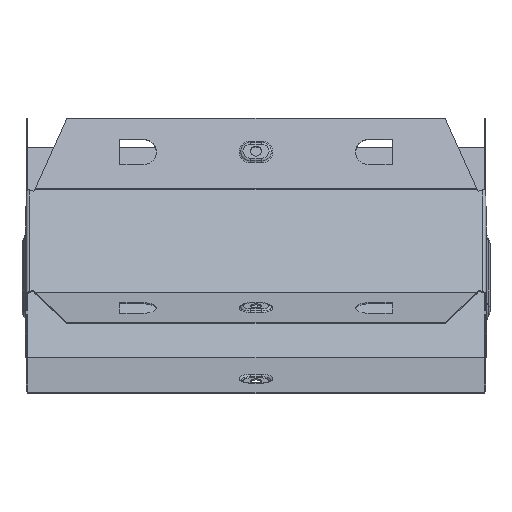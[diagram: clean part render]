
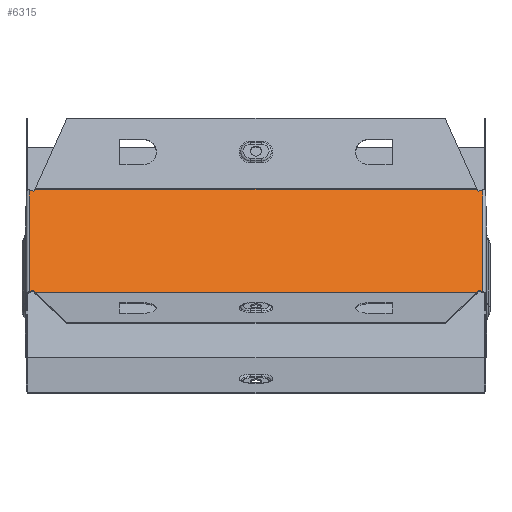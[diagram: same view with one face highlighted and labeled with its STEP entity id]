
A CAD part, front view. The second image highlights one B-rep face of the part: STEP entity #6315.
In plain terms, the highlighted planar face has unit normal (0, -0.707, 0.707).
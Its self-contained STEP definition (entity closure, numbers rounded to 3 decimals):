
#26 = CARTESIAN_POINT ( 'NONE',  ( 145.217, 3.747, -68.371 ) ) ;
#60 = EDGE_CURVE ( 'NONE', #10866, #755, #9585, .T. ) ;
#64 = DIRECTION ( 'NONE',  ( -0.383, 0.653, 0.653 ) ) ;
#86 = VERTEX_POINT ( 'NONE', #11418 ) ;
#262 = CARTESIAN_POINT ( 'NONE',  ( 148.2, 2.873, -69.245 ) ) ;
#417 = CARTESIAN_POINT ( 'NONE',  ( 148.2, 70., -2.118 ) ) ;
#418 = AXIS2_PLACEMENT_3D ( 'NONE', #9348, #7422, #3901 ) ;
#755 = VERTEX_POINT ( 'NONE', #3385 ) ;
#824 = VERTEX_POINT ( 'NONE', #26 ) ;
#1188 = ORIENTED_EDGE ( 'NONE', *, *, #3647, .T. ) ;
#1281 = DIRECTION ( 'NONE',  ( -0.924, -0.271, -0.271 ) ) ;
#1355 = CARTESIAN_POINT ( 'NONE',  ( 145.217, 68.371, -3.747 ) ) ;
#1407 = CARTESIAN_POINT ( 'NONE',  ( 150.299, 2.258, -69.859 ) ) ;
#1577 = ORIENTED_EDGE ( 'NONE', *, *, #4798, .T. ) ;
#1715 = EDGE_LOOP ( 'NONE', ( #6818, #7938, #9898, #1188, #9897, #1577, #2238, #10076, #5448, #2293, #8550, #5982 ) ) ;
#1747 = VERTEX_POINT ( 'NONE', #3424 ) ;
#2070 = DIRECTION ( 'NONE',  ( 0.383, 0.653, 0.653 ) ) ;
#2141 = EDGE_CURVE ( 'NONE', #824, #8293, #5391, .T. ) ;
#2238 = ORIENTED_EDGE ( 'NONE', *, *, #10884, .T. ) ;
#2293 = ORIENTED_EDGE ( 'NONE', *, *, #9807, .T. ) ;
#2308 = VECTOR ( 'NONE', #5974, 1000. ) ;
#2347 = VERTEX_POINT ( 'NONE', #7686 ) ;
#2359 = EDGE_CURVE ( 'NONE', #8275, #755, #7883, .T. ) ;
#2691 = CARTESIAN_POINT ( 'NONE',  ( 123.5, 105.445, 33.327 ) ) ;
#2938 = CARTESIAN_POINT ( 'NONE',  ( 123.5, -33.327, -105.445 ) ) ;
#3048 = VECTOR ( 'NONE', #7613, 1000. ) ;
#3055 = VECTOR ( 'NONE', #2070, 1000. ) ;
#3114 = CARTESIAN_POINT ( 'NONE',  ( -145.217, 68.371, -3.747 ) ) ;
#3156 = VECTOR ( 'NONE', #1281, 1000. ) ;
#3202 = VECTOR ( 'NONE', #10310, 1000. ) ;
#3385 = CARTESIAN_POINT ( 'NONE',  ( -144.345, 2.258, -69.859 ) ) ;
#3391 = VECTOR ( 'NONE', #5013, 1000. ) ;
#3424 = CARTESIAN_POINT ( 'NONE',  ( -148.2, 2.873, -69.245 ) ) ;
#3493 = DIRECTION ( 'NONE',  ( -1., 0., 0. ) ) ;
#3534 = LINE ( 'NONE', #8519, #3391 ) ;
#3583 = EDGE_CURVE ( 'NONE', #3588, #10211, #4387, .T. ) ;
#3588 = VERTEX_POINT ( 'NONE', #1355 ) ;
#3647 = EDGE_CURVE ( 'NONE', #7996, #3588, #5087, .T. ) ;
#3691 = EDGE_CURVE ( 'NONE', #7996, #8293, #10062, .T. ) ;
#3901 = DIRECTION ( 'NONE',  ( 0., 0.707, 0.707 ) ) ;
#4150 = CARTESIAN_POINT ( 'NONE',  ( 148.2, 69.245, -2.873 ) ) ;
#4170 = LINE ( 'NONE', #7864, #10107 ) ;
#4246 = LINE ( 'NONE', #4808, #2308 ) ;
#4303 = CARTESIAN_POINT ( 'NONE',  ( -145.217, 3.747, -68.371 ) ) ;
#4387 = LINE ( 'NONE', #2691, #8214 ) ;
#4421 = CARTESIAN_POINT ( 'NONE',  ( 148.2, 2.258, -69.859 ) ) ;
#4478 = FACE_OUTER_BOUND ( 'NONE', #1715, .T. ) ;
#4633 = CARTESIAN_POINT ( 'NONE',  ( 144.345, 2.258, -69.859 ) ) ;
#4758 = CARTESIAN_POINT ( 'NONE',  ( 150.299, 69.859, -2.258 ) ) ;
#4798 = EDGE_CURVE ( 'NONE', #10211, #86, #3534, .T. ) ;
#4808 = CARTESIAN_POINT ( 'NONE',  ( -148.2, 70., -2.118 ) ) ;
#5013 = DIRECTION ( 'NONE',  ( -1., 0., 0. ) ) ;
#5087 = LINE ( 'NONE', #4758, #3156 ) ;
#5237 = VECTOR ( 'NONE', #3493, 1000. ) ;
#5391 = LINE ( 'NONE', #1407, #3048 ) ;
#5448 = ORIENTED_EDGE ( 'NONE', *, *, #9516, .T. ) ;
#5605 = DIRECTION ( 'NONE',  ( -0.924, 0.271, 0.271 ) ) ;
#5974 = DIRECTION ( 'NONE',  ( 0., -0.707, -0.707 ) ) ;
#5982 = ORIENTED_EDGE ( 'NONE', *, *, #2359, .F. ) ;
#6315 = ADVANCED_FACE ( 'NONE', ( #4478 ), #11049, .F. ) ;
#6818 = ORIENTED_EDGE ( 'NONE', *, *, #11222, .T. ) ;
#7046 = LINE ( 'NONE', #8260, #7189 ) ;
#7189 = VECTOR ( 'NONE', #5605, 1000. ) ;
#7422 = DIRECTION ( 'NONE',  ( 0., 0.707, -0.707 ) ) ;
#7445 = VECTOR ( 'NONE', #10992, 1000. ) ;
#7613 = DIRECTION ( 'NONE',  ( 0.924, -0.271, -0.271 ) ) ;
#7686 = CARTESIAN_POINT ( 'NONE',  ( -148.2, 69.245, -2.873 ) ) ;
#7864 = CARTESIAN_POINT ( 'NONE',  ( -150.299, 2.258, -69.859 ) ) ;
#7883 = LINE ( 'NONE', #4421, #5237 ) ;
#7938 = ORIENTED_EDGE ( 'NONE', *, *, #2141, .T. ) ;
#7963 = DIRECTION ( 'NONE',  ( 0.383, -0.653, -0.653 ) ) ;
#7996 = VERTEX_POINT ( 'NONE', #4150 ) ;
#8214 = VECTOR ( 'NONE', #64, 1000. ) ;
#8260 = CARTESIAN_POINT ( 'NONE',  ( -150.299, 69.859, -2.258 ) ) ;
#8275 = VERTEX_POINT ( 'NONE', #4633 ) ;
#8293 = VERTEX_POINT ( 'NONE', #262 ) ;
#8331 = LINE ( 'NONE', #2938, #3055 ) ;
#8437 = CARTESIAN_POINT ( 'NONE',  ( -145.217, 3.747, -68.371 ) ) ;
#8513 = VECTOR ( 'NONE', #7963, 1000. ) ;
#8519 = CARTESIAN_POINT ( 'NONE',  ( 148.2, 69.859, -2.258 ) ) ;
#8550 = ORIENTED_EDGE ( 'NONE', *, *, #60, .T. ) ;
#8907 = EDGE_CURVE ( 'NONE', #11466, #2347, #7046, .T. ) ;
#9348 = CARTESIAN_POINT ( 'NONE',  ( 148.2, 70., -2.118 ) ) ;
#9516 = EDGE_CURVE ( 'NONE', #2347, #1747, #4246, .T. ) ;
#9585 = LINE ( 'NONE', #4303, #8513 ) ;
#9807 = EDGE_CURVE ( 'NONE', #1747, #10866, #4170, .T. ) ;
#9897 = ORIENTED_EDGE ( 'NONE', *, *, #3583, .T. ) ;
#9898 = ORIENTED_EDGE ( 'NONE', *, *, #3691, .F. ) ;
#10062 = LINE ( 'NONE', #417, #7445 ) ;
#10076 = ORIENTED_EDGE ( 'NONE', *, *, #8907, .T. ) ;
#10107 = VECTOR ( 'NONE', #11251, 1000. ) ;
#10151 = CARTESIAN_POINT ( 'NONE',  ( -145.217, 68.371, -3.747 ) ) ;
#10211 = VERTEX_POINT ( 'NONE', #11018 ) ;
#10264 = LINE ( 'NONE', #10151, #3202 ) ;
#10310 = DIRECTION ( 'NONE',  ( -0.383, -0.653, -0.653 ) ) ;
#10866 = VERTEX_POINT ( 'NONE', #8437 ) ;
#10884 = EDGE_CURVE ( 'NONE', #86, #11466, #10264, .T. ) ;
#10992 = DIRECTION ( 'NONE',  ( 0., -0.707, -0.707 ) ) ;
#11018 = CARTESIAN_POINT ( 'NONE',  ( 144.345, 69.859, -2.258 ) ) ;
#11049 = PLANE ( 'NONE',  #418 ) ;
#11222 = EDGE_CURVE ( 'NONE', #8275, #824, #8331, .T. ) ;
#11251 = DIRECTION ( 'NONE',  ( 0.924, 0.271, 0.271 ) ) ;
#11418 = CARTESIAN_POINT ( 'NONE',  ( -144.345, 69.859, -2.258 ) ) ;
#11466 = VERTEX_POINT ( 'NONE', #3114 ) ;
